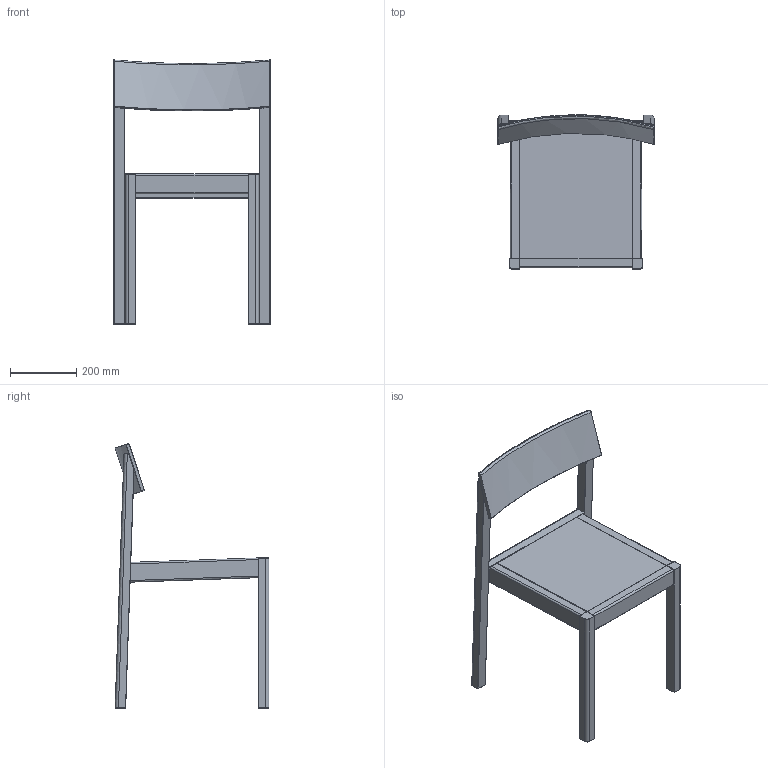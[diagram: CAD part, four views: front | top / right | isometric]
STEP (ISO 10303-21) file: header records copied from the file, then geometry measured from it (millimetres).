
FILE_DESCRIPTION (( 'STEP AP214' ), '1' );
FILE_NAME ('Mauro Dining Chair.STEP', '2026-05-28T13:53:15', ( '' ), ( '' ), 'SwSTEP 2.0', 'SolidWorks 2024', '' );
FILE_SCHEMA (( 'AUTOMOTIVE_DESIGN' ));
Length unit declared in the file: millimetre
Products named in the file (1): Mauro Dining Chair
Bounding box: 472.98 x 466.08 x 800.36 mm (x, y, z)
Surface area: 1012516.1 mm2 (no closed solid volume)
Topology: 0 solids, 10 shells, 241 faces, 489 edges, 264 vertices
Faces by surface type: cylinder 109, bspline 78, plane 54
Entity records: 7573 total; most frequent: CARTESIAN_POINT 3397, ORIENTED_EDGE 946, DIRECTION 685, EDGE_CURVE 489, AXIS2_PLACEMENT_3D 340, B_SPLINE_CURVE_WITH_KNOTS 265, VERTEX_POINT 264, EDGE_LOOP 241
